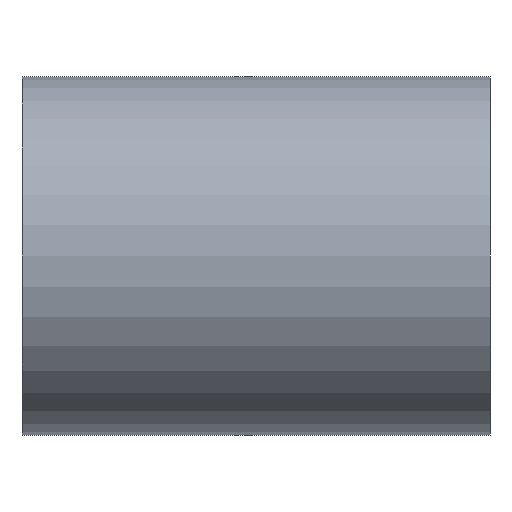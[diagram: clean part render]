
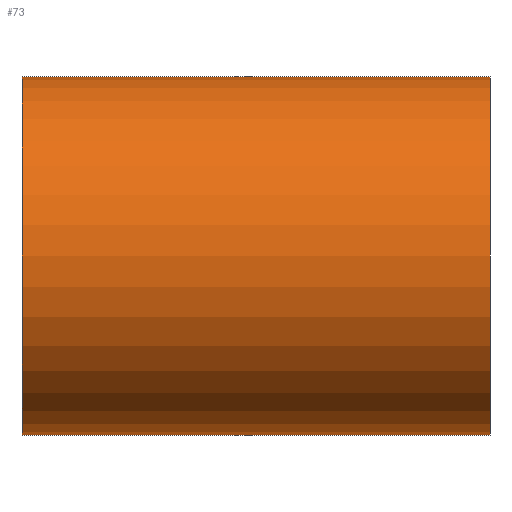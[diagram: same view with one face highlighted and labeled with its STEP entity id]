
A CAD part, front view. The second image highlights one B-rep face of the part: STEP entity #73.
In plain terms, the highlighted cylindrical face has radius 12.25 mm (diameter 24.5 mm), a partial arc.
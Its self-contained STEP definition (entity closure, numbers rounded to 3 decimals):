
#2 = CARTESIAN_POINT ( 'NONE',  ( -16., 0., 0. ) ) ;
#11 = DIRECTION ( 'NONE',  ( -1., 0., 0. ) ) ;
#18 = AXIS2_PLACEMENT_3D ( 'NONE', #168, #27, #28 ) ;
#24 = EDGE_CURVE ( 'NONE', #207, #53, #318, .T. ) ;
#27 = DIRECTION ( 'NONE',  ( -1., 0., 0. ) ) ;
#28 = DIRECTION ( 'NONE',  ( 0., 0., 1. ) ) ;
#34 = CYLINDRICAL_SURFACE ( 'NONE', #18, 12.25 ) ;
#36 = AXIS2_PLACEMENT_3D ( 'NONE', #2, #349, #212 ) ;
#46 = ORIENTED_EDGE ( 'NONE', *, *, #110, .F. ) ;
#51 = ORIENTED_EDGE ( 'NONE', *, *, #217, .F. ) ;
#52 = EDGE_CURVE ( 'NONE', #210, #207, #194, .T. ) ;
#53 = VERTEX_POINT ( 'NONE', #220 ) ;
#57 = DIRECTION ( 'NONE',  ( -1., 0., 0. ) ) ;
#73 = ADVANCED_FACE ( 'NONE', ( #142 ), #34, .T. ) ;
#81 = EDGE_LOOP ( 'NONE', ( #51, #258, #312, #46 ) ) ;
#85 = DIRECTION ( 'NONE',  ( -1., 0., 0. ) ) ;
#92 = VECTOR ( 'NONE', #57, 1000. ) ;
#105 = VERTEX_POINT ( 'NONE', #216 ) ;
#110 = EDGE_CURVE ( 'NONE', #105, #53, #262, .T. ) ;
#142 = FACE_OUTER_BOUND ( 'NONE', #81, .T. ) ;
#149 = CARTESIAN_POINT ( 'NONE',  ( 16., 0., 12.25 ) ) ;
#168 = CARTESIAN_POINT ( 'NONE',  ( -4.799, 0., 0. ) ) ;
#187 = CARTESIAN_POINT ( 'NONE',  ( 16., 0., 0. ) ) ;
#191 = CARTESIAN_POINT ( 'NONE',  ( -4.799, 0., 12.25 ) ) ;
#193 = CARTESIAN_POINT ( 'NONE',  ( 16., 0., -12.25 ) ) ;
#194 = CIRCLE ( 'NONE', #200, 12.25 ) ;
#199 = CARTESIAN_POINT ( 'NONE',  ( -4.799, 0., -12.25 ) ) ;
#200 = AXIS2_PLACEMENT_3D ( 'NONE', #187, #85, #297 ) ;
#207 = VERTEX_POINT ( 'NONE', #149 ) ;
#210 = VERTEX_POINT ( 'NONE', #193 ) ;
#212 = DIRECTION ( 'NONE',  ( 0., 0., 1. ) ) ;
#216 = CARTESIAN_POINT ( 'NONE',  ( -16., 0., -12.25 ) ) ;
#217 = EDGE_CURVE ( 'NONE', #210, #105, #275, .T. ) ;
#220 = CARTESIAN_POINT ( 'NONE',  ( -16., 0., 12.25 ) ) ;
#258 = ORIENTED_EDGE ( 'NONE', *, *, #52, .T. ) ;
#262 = CIRCLE ( 'NONE', #36, 12.25 ) ;
#275 = LINE ( 'NONE', #199, #291 ) ;
#291 = VECTOR ( 'NONE', #11, 1000. ) ;
#297 = DIRECTION ( 'NONE',  ( 0., 0., 1. ) ) ;
#312 = ORIENTED_EDGE ( 'NONE', *, *, #24, .T. ) ;
#318 = LINE ( 'NONE', #191, #92 ) ;
#349 = DIRECTION ( 'NONE',  ( -1., 0., 0. ) ) ;
